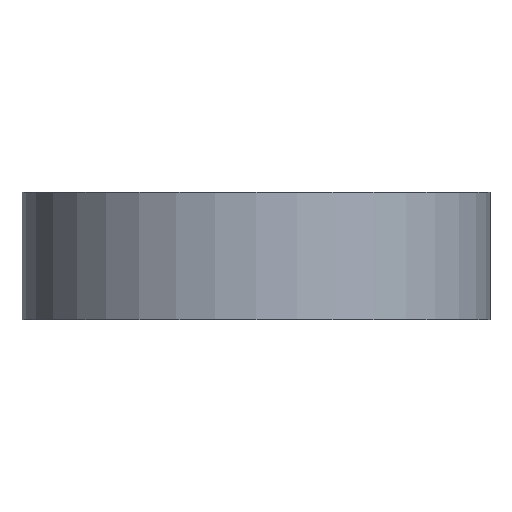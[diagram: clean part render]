
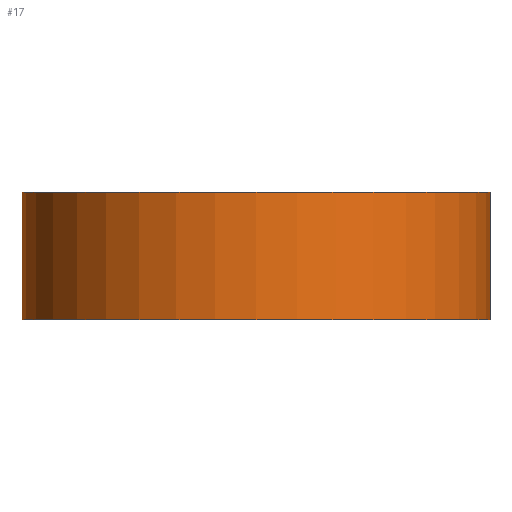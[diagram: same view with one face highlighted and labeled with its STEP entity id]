
A CAD part, front view. The second image highlights one B-rep face of the part: STEP entity #17.
In plain terms, the highlighted cylindrical face has radius 22 mm (diameter 44 mm), a full revolution.
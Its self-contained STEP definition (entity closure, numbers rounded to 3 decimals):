
#17 = ADVANCED_FACE('',(#18),#31,.T.);
#18 = FACE_BOUND('',#19,.T.);
#19 = EDGE_LOOP('',(#20,#54,#77,#104));
#20 = ORIENTED_EDGE('',*,*,#21,.F.);
#21 = EDGE_CURVE('',#22,#22,#24,.T.);
#22 = VERTEX_POINT('',#23);
#23 = CARTESIAN_POINT('',(-183.,-265.913,-11.));
#24 = SURFACE_CURVE('',#25,(#30,#42),.PCURVE_S1.);
#25 = CIRCLE('',#26,22.);
#26 = AXIS2_PLACEMENT_3D('',#27,#28,#29);
#27 = CARTESIAN_POINT('',(-205.,-265.913,-11.));
#28 = DIRECTION('',(0.,0.,1.));
#29 = DIRECTION('',(1.,0.,-0.));
#30 = PCURVE('',#31,#36);
#31 = CYLINDRICAL_SURFACE('',#32,22.);
#32 = AXIS2_PLACEMENT_3D('',#33,#34,#35);
#33 = CARTESIAN_POINT('',(-205.,-265.913,-23.));
#34 = DIRECTION('',(0.,0.,1.));
#35 = DIRECTION('',(1.,0.,-0.));
#36 = DEFINITIONAL_REPRESENTATION('',(#37),#41);
#37 = LINE('',#38,#39);
#38 = CARTESIAN_POINT('',(0.,12.));
#39 = VECTOR('',#40,1.);
#40 = DIRECTION('',(1.,0.));
#41 = ( GEOMETRIC_REPRESENTATION_CONTEXT(2) 
PARAMETRIC_REPRESENTATION_CONTEXT() REPRESENTATION_CONTEXT('2D SPACE',''
  ) );
#42 = PCURVE('',#43,#48);
#43 = PLANE('',#44);
#44 = AXIS2_PLACEMENT_3D('',#45,#46,#47);
#45 = CARTESIAN_POINT('',(-205.,-265.913,-11.));
#46 = DIRECTION('',(0.,0.,1.));
#47 = DIRECTION('',(1.,0.,-0.));
#48 = DEFINITIONAL_REPRESENTATION('',(#49),#53);
#49 = CIRCLE('',#50,22.);
#50 = AXIS2_PLACEMENT_2D('',#51,#52);
#51 = CARTESIAN_POINT('',(0.,0.));
#52 = DIRECTION('',(1.,0.));
#53 = ( GEOMETRIC_REPRESENTATION_CONTEXT(2) 
PARAMETRIC_REPRESENTATION_CONTEXT() REPRESENTATION_CONTEXT('2D SPACE',''
  ) );
#54 = ORIENTED_EDGE('',*,*,#55,.F.);
#55 = EDGE_CURVE('',#56,#22,#58,.T.);
#56 = VERTEX_POINT('',#57);
#57 = CARTESIAN_POINT('',(-183.,-265.913,-23.));
#58 = SEAM_CURVE('',#59,(#63,#70),.PCURVE_S1.);
#59 = LINE('',#60,#61);
#60 = CARTESIAN_POINT('',(-183.,-265.913,-23.));
#61 = VECTOR('',#62,1.);
#62 = DIRECTION('',(0.,0.,1.));
#63 = PCURVE('',#31,#64);
#64 = DEFINITIONAL_REPRESENTATION('',(#65),#69);
#65 = LINE('',#66,#67);
#66 = CARTESIAN_POINT('',(6.283,-0.));
#67 = VECTOR('',#68,1.);
#68 = DIRECTION('',(0.,1.));
#69 = ( GEOMETRIC_REPRESENTATION_CONTEXT(2) 
PARAMETRIC_REPRESENTATION_CONTEXT() REPRESENTATION_CONTEXT('2D SPACE',''
  ) );
#70 = PCURVE('',#31,#71);
#71 = DEFINITIONAL_REPRESENTATION('',(#72),#76);
#72 = LINE('',#73,#74);
#73 = CARTESIAN_POINT('',(0.,-0.));
#74 = VECTOR('',#75,1.);
#75 = DIRECTION('',(0.,1.));
#76 = ( GEOMETRIC_REPRESENTATION_CONTEXT(2) 
PARAMETRIC_REPRESENTATION_CONTEXT() REPRESENTATION_CONTEXT('2D SPACE',''
  ) );
#77 = ORIENTED_EDGE('',*,*,#78,.T.);
#78 = EDGE_CURVE('',#56,#56,#79,.T.);
#79 = SURFACE_CURVE('',#80,(#85,#92),.PCURVE_S1.);
#80 = CIRCLE('',#81,22.);
#81 = AXIS2_PLACEMENT_3D('',#82,#83,#84);
#82 = CARTESIAN_POINT('',(-205.,-265.913,-23.));
#83 = DIRECTION('',(0.,0.,1.));
#84 = DIRECTION('',(1.,0.,-0.));
#85 = PCURVE('',#31,#86);
#86 = DEFINITIONAL_REPRESENTATION('',(#87),#91);
#87 = LINE('',#88,#89);
#88 = CARTESIAN_POINT('',(0.,0.));
#89 = VECTOR('',#90,1.);
#90 = DIRECTION('',(1.,0.));
#91 = ( GEOMETRIC_REPRESENTATION_CONTEXT(2) 
PARAMETRIC_REPRESENTATION_CONTEXT() REPRESENTATION_CONTEXT('2D SPACE',''
  ) );
#92 = PCURVE('',#93,#98);
#93 = PLANE('',#94);
#94 = AXIS2_PLACEMENT_3D('',#95,#96,#97);
#95 = CARTESIAN_POINT('',(-205.,-265.913,-23.));
#96 = DIRECTION('',(0.,0.,1.));
#97 = DIRECTION('',(1.,0.,-0.));
#98 = DEFINITIONAL_REPRESENTATION('',(#99),#103);
#99 = CIRCLE('',#100,22.);
#100 = AXIS2_PLACEMENT_2D('',#101,#102);
#101 = CARTESIAN_POINT('',(0.,0.));
#102 = DIRECTION('',(1.,0.));
#103 = ( GEOMETRIC_REPRESENTATION_CONTEXT(2) 
PARAMETRIC_REPRESENTATION_CONTEXT() REPRESENTATION_CONTEXT('2D SPACE',''
  ) );
#104 = ORIENTED_EDGE('',*,*,#55,.T.);
